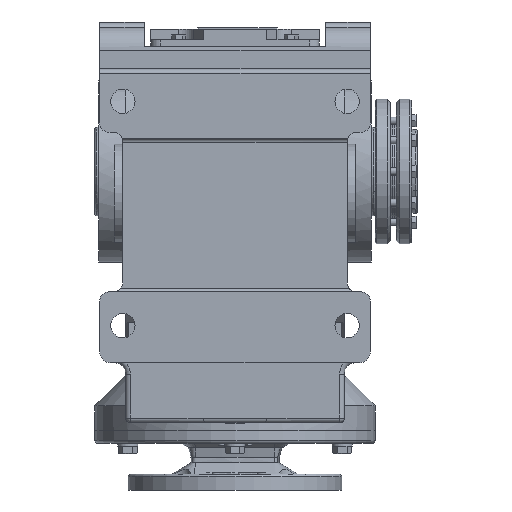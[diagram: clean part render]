
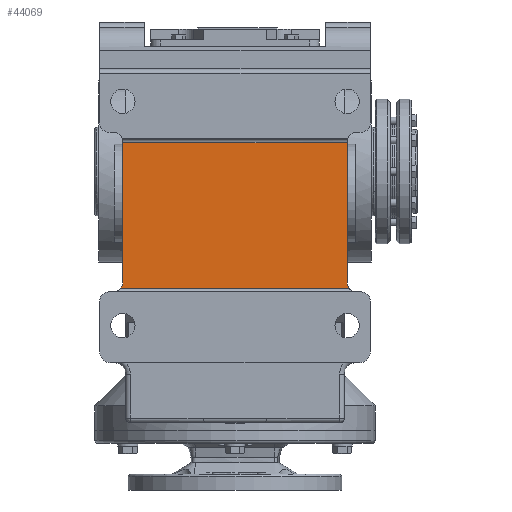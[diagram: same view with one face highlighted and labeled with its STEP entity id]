
A CAD part, front view. The second image highlights one B-rep face of the part: STEP entity #44069.
In plain terms, the highlighted planar face has unit normal (0, -1, 0).
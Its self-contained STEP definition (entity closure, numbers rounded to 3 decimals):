
#2136 = CARTESIAN_POINT ( 'NONE',  ( -145., -260., 31. ) ) ;
#2161 = PLANE ( 'NONE',  #27055 ) ;
#2168 = DIRECTION ( 'NONE',  ( 0., -1., 0. ) ) ;
#2171 = DIRECTION ( 'NONE',  ( 0., 0., -1. ) ) ;
#5786 = EDGE_CURVE ( 'NONE', #51636, #51628, #33883, .T. ) ;
#5787 = EDGE_CURVE ( 'NONE', #51681, #51628, #33886, .T. ) ;
#5788 = EDGE_CURVE ( 'NONE', #51642, #51687, #33885, .T. ) ;
#5789 = EDGE_CURVE ( 'NONE', #51642, #51639, #33888, .T. ) ;
#5790 = EDGE_CURVE ( 'NONE', #51639, #51636, #33889, .T. ) ;
#5863 = EDGE_CURVE ( 'NONE', #51687, #51681, #34003, .T. ) ;
#7944 = CARTESIAN_POINT ( 'NONE',  ( 120., -260., -119. ) ) ;
#7950 = CARTESIAN_POINT ( 'NONE',  ( 120., -260., 31. ) ) ;
#7952 = CARTESIAN_POINT ( 'NONE',  ( -120., -260., 31. ) ) ;
#7954 = CARTESIAN_POINT ( 'NONE',  ( -120., -260., -119. ) ) ;
#7993 = CARTESIAN_POINT ( 'NONE',  ( 122., -260., -125. ) ) ;
#7999 = CARTESIAN_POINT ( 'NONE',  ( -122., -260., -125. ) ) ;
#13232 = AXIS2_PLACEMENT_3D ( 'NONE', #49156, #49155, #49154 ) ;
#13233 = AXIS2_PLACEMENT_3D ( 'NONE', #49153, #49152, #49151 ) ;
#14856 = EDGE_LOOP ( 'NONE', ( #44052, #44059, #44063, #44071, #44078, #44082 ) ) ;
#27055 = AXIS2_PLACEMENT_3D ( 'NONE', #2136, #2168, #2171 ) ;
#33883 = LINE ( 'NONE', #49160, #33884 ) ;
#33884 = VECTOR ( 'NONE', #49159, 1000. ) ;
#33885 = CIRCLE ( 'NONE', #13233, 10. ) ;
#33886 = CIRCLE ( 'NONE', #13232, 10. ) ;
#33888 = LINE ( 'NONE', #49157, #33890 ) ;
#33889 = LINE ( 'NONE', #49150, #33892 ) ;
#33890 = VECTOR ( 'NONE', #49158, 1000. ) ;
#33892 = VECTOR ( 'NONE', #49149, 1000. ) ;
#34003 = LINE ( 'NONE', #55804, #34006 ) ;
#34006 = VECTOR ( 'NONE', #55803, 1000. ) ;
#38151 = FACE_OUTER_BOUND ( 'NONE', #14856, .T. ) ;
#44052 = ORIENTED_EDGE ( 'NONE', *, *, #5790, .F. ) ;
#44059 = ORIENTED_EDGE ( 'NONE', *, *, #5789, .F. ) ;
#44063 = ORIENTED_EDGE ( 'NONE', *, *, #5788, .T. ) ;
#44069 = ADVANCED_FACE ( 'NONE', ( #38151 ), #2161, .T. ) ;
#44071 = ORIENTED_EDGE ( 'NONE', *, *, #5863, .T. ) ;
#44078 = ORIENTED_EDGE ( 'NONE', *, *, #5787, .T. ) ;
#44082 = ORIENTED_EDGE ( 'NONE', *, *, #5786, .F. ) ;
#49149 = DIRECTION ( 'NONE',  ( 1., 0., 0. ) ) ;
#49150 = CARTESIAN_POINT ( 'NONE',  ( -145., -260., 31. ) ) ;
#49151 = DIRECTION ( 'NONE',  ( 0., 0., -1. ) ) ;
#49152 = DIRECTION ( 'NONE',  ( 0., 1., 0. ) ) ;
#49153 = CARTESIAN_POINT ( 'NONE',  ( -130., -260., -119. ) ) ;
#49154 = DIRECTION ( 'NONE',  ( 0., 0., -1. ) ) ;
#49155 = DIRECTION ( 'NONE',  ( 0., 1., 0. ) ) ;
#49156 = CARTESIAN_POINT ( 'NONE',  ( 130., -260., -119. ) ) ;
#49157 = CARTESIAN_POINT ( 'NONE',  ( -120., -260., -125. ) ) ;
#49158 = DIRECTION ( 'NONE',  ( 0., 0., 1. ) ) ;
#49159 = DIRECTION ( 'NONE',  ( 0., 0., -1. ) ) ;
#49160 = CARTESIAN_POINT ( 'NONE',  ( 120., -260., 31. ) ) ;
#51628 = VERTEX_POINT ( 'NONE', #7944 ) ;
#51636 = VERTEX_POINT ( 'NONE', #7950 ) ;
#51639 = VERTEX_POINT ( 'NONE', #7952 ) ;
#51642 = VERTEX_POINT ( 'NONE', #7954 ) ;
#51681 = VERTEX_POINT ( 'NONE', #7993 ) ;
#51687 = VERTEX_POINT ( 'NONE', #7999 ) ;
#55803 = DIRECTION ( 'NONE',  ( 1., 0., 0. ) ) ;
#55804 = CARTESIAN_POINT ( 'NONE',  ( -145., -260., -125. ) ) ;
